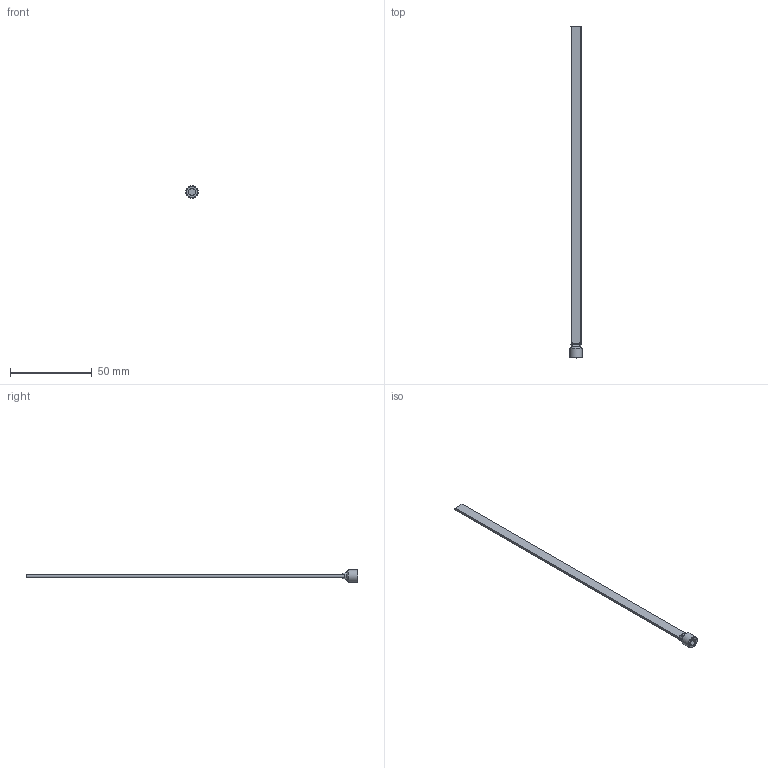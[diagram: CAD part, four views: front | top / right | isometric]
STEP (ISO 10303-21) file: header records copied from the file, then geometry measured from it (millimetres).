
FILE_DESCRIPTION(/* description */ (''),/* implementation_level */ '2;1');
FILE_NAME(/* name */ 'C:/Users/drich/Desktop/SB16X8 v1.step',/* time_stamp */ '2019-12-29T15:52:20-06:00',/* author */ (''),/* organization */ (''),/* preprocessor_version */ 'ST-DEVELOPER v18',/* originating_system */ 'Autodesk Translation Framework v8.12.0.6',/* authorisation */ '');
FILE_SCHEMA (('AUTOMOTIVE_DESIGN { 1 0 10303 214 3 1 1 }'));
Length unit declared in the file: inch
Products named in the file (1): SB16X8
Bounding box: 7.62 x 203.2 x 7.62 mm (x, y, z)
Volume: 2009.9 mm3; surface area: 3260.5 mm2
Topology: 1 solids, 1 shells, 42 faces, 111 edges, 73 vertices
Faces by surface type: plane 20, cylinder 9, cone 8, torus 5
Full cylindrical faces by diameter (mm): 7.616 x1
Entity records: 1453 total; most frequent: CARTESIAN_POINT 383, ORIENTED_EDGE 222, DIRECTION 209, EDGE_CURVE 111, AXIS2_PLACEMENT_3D 77, VERTEX_POINT 73, LINE 55, VECTOR 55
